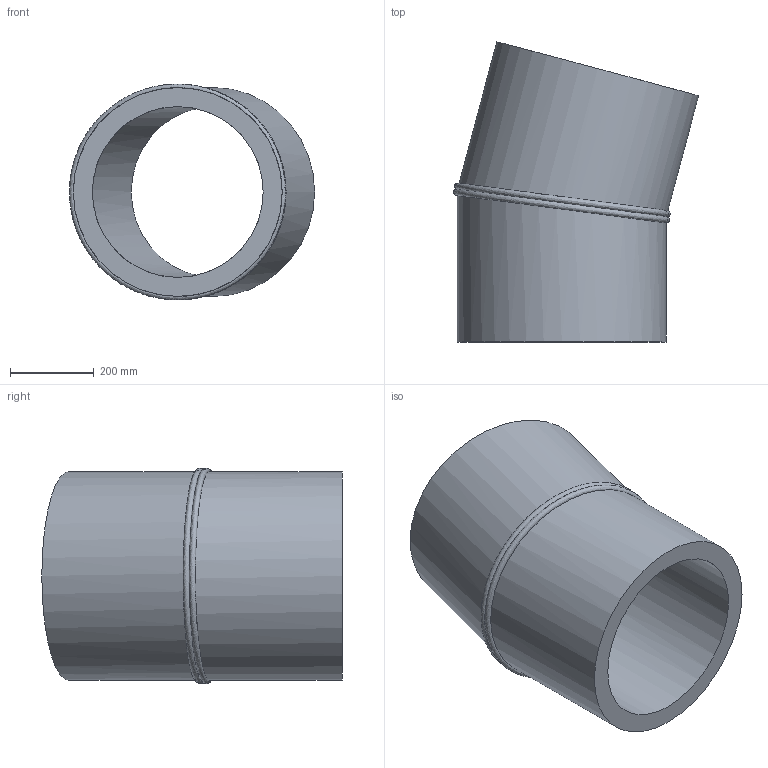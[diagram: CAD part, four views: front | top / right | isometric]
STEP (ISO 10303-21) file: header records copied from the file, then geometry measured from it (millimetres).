
FILE_DESCRIPTION(/* description */ ('Unknown'),/* implementation_level */ '2;1');
FILE_NAME(/* name */ 'Curva 15° a settore DE500 SDR11',/* time_stamp */ '2022-07-22T16:08:51+02:00',/* author */ ('Unknown'),/* organization */ ('Unknown'),/* preprocessor_version */ 'ST-DEVELOPER v18.102',/* originating_system */ 'Solid Edge',/* authorisation */ 'Unknown');
FILE_SCHEMA (('AUTOMOTIVE_DESIGN {1 0 10303 214 3 1 1}'));
Length unit declared in the file: millimetre
Products named in the file (2): Curva 15° a settore DE500 SDR11; Tubo x Gomito 15° DE500 SDR11
Assembly tree (2 placements, depth 2):
  Curva 15° a settore DE500 SDR11
    Tubo x Gomito 15° DE500 SDR11  x2
Bounding box: 587.07 x 719.19 x 516.91 mm (x, y, z)
Volume: 43500558.9 mm3; surface area: 2197817.3 mm2
Topology: 2 solids, 2 shells, 10 faces, 20 edges, 14 vertices
Faces by surface type: cylinder 4, plane 4, bspline 2
Full cylindrical faces by diameter (mm): 409.2 x2, 500 x2
Entity records: 1219 total; most frequent: CARTESIAN_POINT 1082, DIRECTION 20, ORIENTED_EDGE 10, EDGE_LOOP 10, FACE_BOUND 10, AXIS2_PLACEMENT_3D 10, EDGE_CURVE 5, VERTEX_POINT 5
